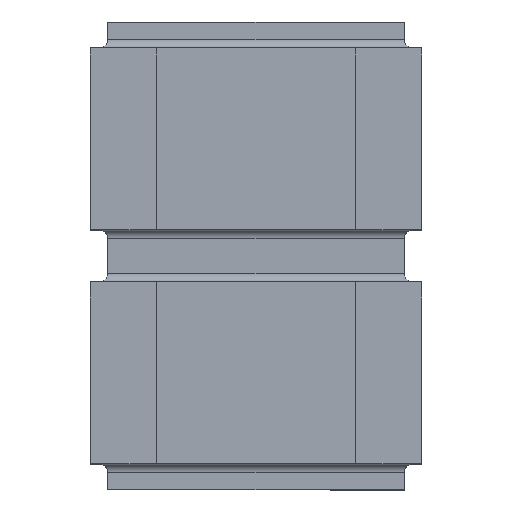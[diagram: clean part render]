
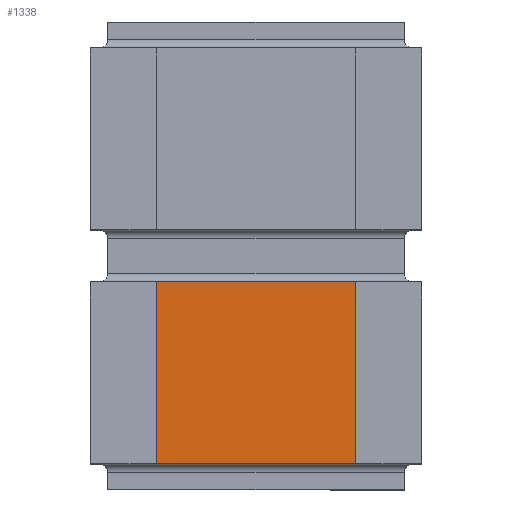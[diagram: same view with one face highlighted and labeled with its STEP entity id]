
A CAD part, top view. The second image highlights one B-rep face of the part: STEP entity #1338.
In plain terms, the highlighted planar face has unit normal (0, 0, 1).
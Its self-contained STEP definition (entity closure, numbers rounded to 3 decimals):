
#76=FACE_OUTER_BOUND('',#160,.T.);
#160=EDGE_LOOP('',(#955,#956,#957,#958));
#245=LINE('',#1944,#417);
#251=LINE('',#1960,#423);
#261=LINE('',#1983,#433);
#262=LINE('',#1985,#434);
#417=VECTOR('',#1573,10.);
#423=VECTOR('',#1587,10.);
#433=VECTOR('',#1611,10.);
#434=VECTOR('',#1614,10.);
#585=VERTEX_POINT('',#1941);
#586=VERTEX_POINT('',#1943);
#592=VERTEX_POINT('',#1958);
#598=VERTEX_POINT('',#1981);
#713=EDGE_CURVE('',#585,#586,#245,.T.);
#721=EDGE_CURVE('',#592,#585,#251,.T.);
#733=EDGE_CURVE('',#598,#592,#261,.T.);
#734=EDGE_CURVE('',#586,#598,#262,.T.);
#955=ORIENTED_EDGE('',*,*,#721,.F.);
#956=ORIENTED_EDGE('',*,*,#733,.F.);
#957=ORIENTED_EDGE('',*,*,#734,.F.);
#958=ORIENTED_EDGE('',*,*,#713,.F.);
#1264=PLANE('',#1452);
#1338=ADVANCED_FACE('',(#76),#1264,.T.);
#1452=AXIS2_PLACEMENT_3D('',#1984,#1612,#1613);
#1573=DIRECTION('',(-1.,0.,0.));
#1587=DIRECTION('',(0.,-1.,0.));
#1611=DIRECTION('',(1.,0.,0.));
#1612=DIRECTION('center_axis',(0.,0.,1.));
#1613=DIRECTION('ref_axis',(1.,0.,0.));
#1614=DIRECTION('',(0.,1.,0.));
#1941=CARTESIAN_POINT('',(1.905,0.15,0.495));
#1943=CARTESIAN_POINT('',(0.005,0.15,0.495));
#1944=CARTESIAN_POINT('',(1.905,0.15,0.495));
#1958=CARTESIAN_POINT('',(1.905,1.2,0.495));
#1960=CARTESIAN_POINT('',(1.905,1.2,0.495));
#1981=CARTESIAN_POINT('',(0.005,1.2,0.495));
#1983=CARTESIAN_POINT('',(0.005,1.2,0.495));
#1984=CARTESIAN_POINT('Origin',(0.955,1.2,0.495));
#1985=CARTESIAN_POINT('',(0.005,0.15,0.495));
